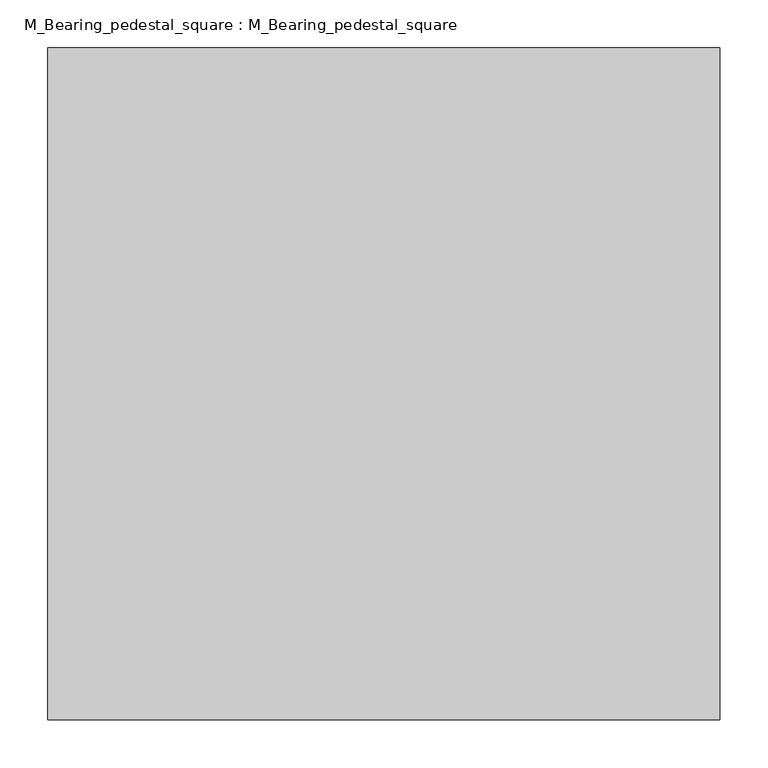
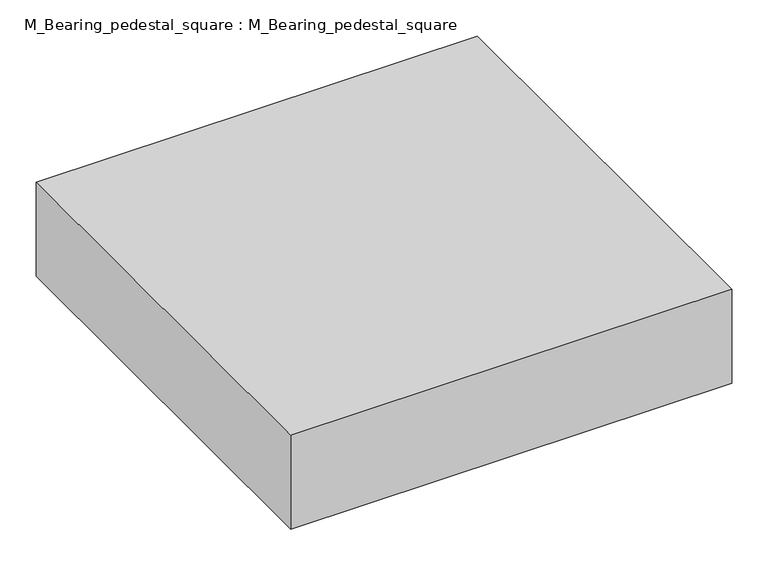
"""IFC4 building model written with IfcOpenShell, lengths in millimetres: proxy geometry, M_Bearing_pedestal_square : M_Bearing_pedestal_square."""

from ifc_helpers import new_model, si_unit, frame, origin, place, context, project, spatial, polyline, outline, extrude, source, transform, mapped, element, save


def m_bearing_pedestal_square_m_bearing_pedestal_square_c1e3d4df(model_context):
    return source(origin(), model_context, "Body", "SweptSolid", [
        extrude(outline(polyline([(-350.0, -350.0), (-350.0, 350.0), (350.0, 350.0), (350.0, -350.0), (-350.0, -350.0)])), frame((0.0, 0.0, -157.866728), z_axis=(0.0, 0.0, 1.0), x_axis=(1.0, 0.0, 0.0)), (0.0, 0.0, 1.0), 157.866728),
    ])


if __name__ == "__main__":
    model = new_model("IFC4")
    model_context = context("Model", 3, world=origin())
    ifc_project = project(units=[si_unit("LENGTHUNIT", "METRE", prefix="MILLI")], contexts=[model_context])
    site = spatial("IfcSite", under=ifc_project)
    building = spatial("IfcBuilding", under=site)
    placement = place(None, origin())
    m_bearing_pedestal_square_m_bearing_pedestal_square_shape = m_bearing_pedestal_square_m_bearing_pedestal_square_c1e3d4df(model_context)
    element("IfcBuildingElementProxy", 1, Name="M_Bearing_pedestal_square : M_Bearing_pedestal_square", ObjectType="M_Bearing_pedestal_square : M_Bearing_pedestal_square", at=placement, inside=building, context=model_context, shape_type="MappedRepresentation", body=[
        mapped(m_bearing_pedestal_square_m_bearing_pedestal_square_shape, transform((0.0, 0.0, 0.0), x_axis=(1.0, 0.0, 0.0), y_axis=(0.0, 1.0, 0.0), z_axis=(0.0, 0.0, 1.0))),
    ])
    save(model, "model.ifc")
